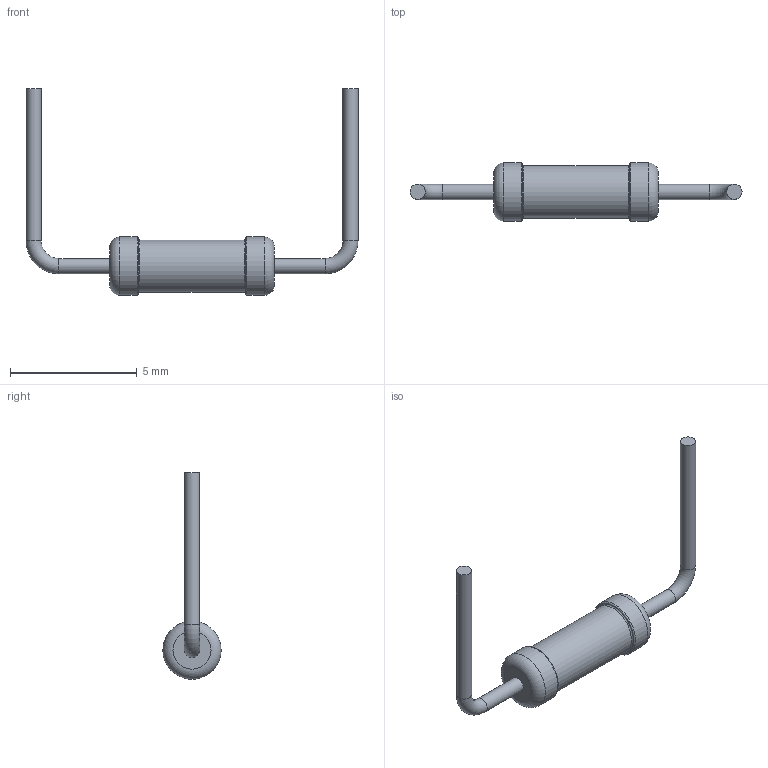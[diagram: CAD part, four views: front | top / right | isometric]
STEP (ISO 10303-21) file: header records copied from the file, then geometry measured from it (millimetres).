
FILE_DESCRIPTION(('STEP AP203'), '1');
FILE_NAME('Ñ2-29Â-0,062(2)', '', ('UNSPECIFIED'), ('UNSPECIFIED'), 'ASCON STEP Converter 1.6', 'ASCON Math Kernel', '');
FILE_SCHEMA(('CONFIG_CONTROL_DESIGN'));
Length unit declared in the file: millimetre
Bounding box: 13.1 x 2.3 x 8.15 mm (x, y, z)
Volume: 28.4 mm3; surface area: 86.6 mm2
Topology: 1 solids, 1 shells, 21 faces, 35 edges, 20 vertices
Faces by surface type: torus 8, cylinder 7, plane 6
Full cylindrical faces by diameter (mm): 0.6 x4, 2.057 x1, 2.3 x2
Entity records: 626 total; most frequent: DIRECTION 84, CARTESIAN_POINT 62, AXIS2_PLACEMENT_3D 42, EDGE_LOOP 40, ORIENTED_EDGE 40, FACE_OUTER_BOUND 30, COLOUR_RGB 22, FILL_AREA_STYLE_COLOUR 22
